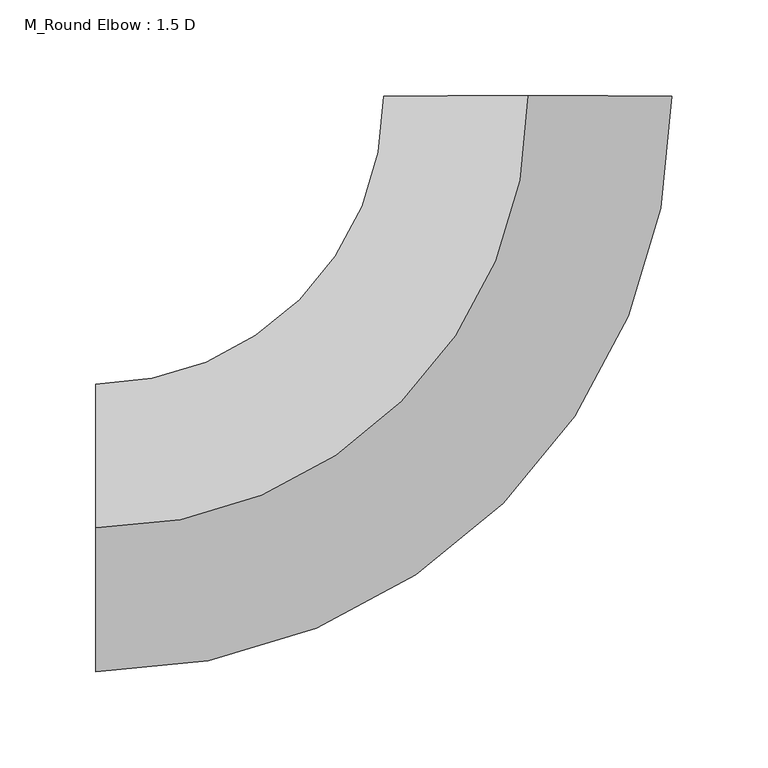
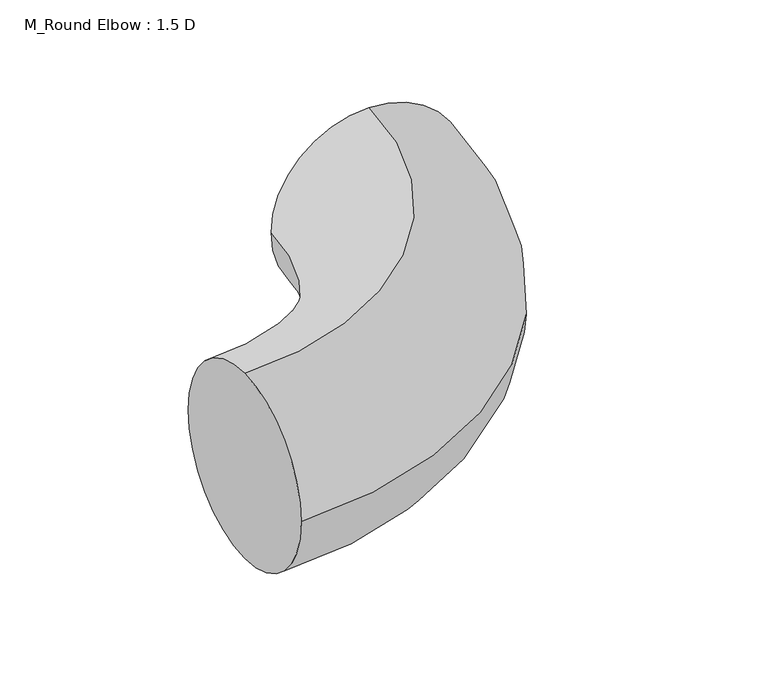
"""IFC4 building model written with IfcOpenShell, lengths in millimetres: duct fitting geometry, M_Round Elbow : 1.5 D."""

import ifcopenshell
import ifcopenshell.guid

model = None  # the IFC model being written
_history = None  # IfcOwnerHistory: only IFC2X3 demands one
_inside = {}  # id of a spatial element -> (the spatial element, [elements in it])
_under = {}  # id of a project, library or spatial element -> (it, [spatial elements below it])
_declared = {}  # id of a project -> (the project, [libraries it declares])
_typed = {}  # id of a type object -> (the type object, [elements of that type])
_made_of = {}  # id of a material, layer set ... -> (it, [elements and type objects made of it])


def new_model(schema):
    """Start an empty IFC model of exactly this schema.

    Asked for "IFC4X3", IfcOpenShell would pick the latest addendum, in which some entities
    have other attributes; the version numbers below select the first issue.
    IFC2X3 requires an IfcOwnerHistory on every rooted entity: one is made here for all.
    """
    global model, _history
    if schema == "IFC4X3":
        model = ifcopenshell.file(schema_version=(4, 3, 0, 0))
    else:
        model = ifcopenshell.file(schema=schema)
    _inside.clear()
    _under.clear()
    _declared.clear()
    _typed.clear()
    _made_of.clear()
    _history = None
    if model.schema == "IFC2X3":
        org = make("IfcOrganization", Name="unknown")
        user = make(
            "IfcPersonAndOrganization",
            ThePerson=make("IfcPerson", FamilyName="unknown"),
            TheOrganization=org,
        )
        app = make(
            "IfcApplication",
            ApplicationDeveloper=org,
            Version="unknown",
            ApplicationFullName="unknown",
            ApplicationIdentifier="unknown",
        )
        _history = make(
            "IfcOwnerHistory",
            OwningUser=user,
            OwningApplication=app,
            ChangeAction="ADDED",
            CreationDate=0,
        )
    return model


def make(cls, **values):
    """One entity of the class cls with the attributes given. An attribute that is None is left unset."""
    return model.create_entity(
        cls, **{name: value for name, value in values.items() if value is not None}
    )


def rooted(cls, **values):
    """An entity with a GlobalId (a new one), such as an element, a storey or a relation."""
    return make(cls, GlobalId=ifcopenshell.guid.new(), OwnerHistory=_history, **values)


def si_unit(unit_type, name, prefix=None):
    """IfcSIUnit, for example si_unit("LENGTHUNIT", "METRE", prefix="MILLI")."""
    return make("IfcSIUnit", UnitType=unit_type, Prefix=prefix, Name=name)


def assignment(units):
    """IfcUnitAssignment: the units of a project."""
    return None if units is None else make("IfcUnitAssignment", Units=units)


def point(xyz):
    """IfcCartesianPoint."""
    return None if xyz is None else make("IfcCartesianPoint", Coordinates=xyz)


def direction(xyz):
    """IfcDirection."""
    return None if xyz is None else make("IfcDirection", DirectionRatios=xyz)


def frame(location, z_axis=None, x_axis=None):
    """IfcAxis2Placement3D, a coordinate frame: its origin and axes. An axis left out is left unset."""
    return make(
        "IfcAxis2Placement3D",
        Location=point(location),
        Axis=direction(z_axis),
        RefDirection=direction(x_axis),
    )


def origin():
    """The frame at (0, 0, 0) with its axes left unset."""
    return frame((0.0, 0.0, 0.0))


def place(relative_to, where):
    """IfcLocalPlacement: puts the frame where relative to a parent placement (None: the world)."""
    return make(
        "IfcLocalPlacement", PlacementRelTo=relative_to, RelativePlacement=where
    )


def context(
    kind, dimensions, precision=None, world=None, true_north=None, identifier=None
):
    """IfcGeometricRepresentationContext, for example the 3D "Model" context."""
    return make(
        "IfcGeometricRepresentationContext",
        ContextIdentifier=identifier,
        ContextType=kind,
        CoordinateSpaceDimension=dimensions,
        Precision=precision,
        WorldCoordinateSystem=world,
        TrueNorth=true_north,
    )


def project(units=None, contexts=None):
    """IfcProject with its units and contexts."""
    return rooted(
        "IfcProject",
        Name="project",
        RepresentationContexts=contexts,
        UnitsInContext=assignment(units),
    )


def spatial(cls, under=None, at=None, **own):
    """A site, building, storey or space (cls), placed at a placement, below another one or the project."""
    s = rooted(cls, ObjectPlacement=at, **own)
    if under is not None:
        _under.setdefault(under.id(), (under, []))[1].append(s)
    return s


def circle_curve(where, radius):
    """IfcCircle in the frame where."""
    return make("IfcCircle", Position=where, Radius=radius)


def ellipse_curve(where, semi_axis1, semi_axis2):
    """IfcEllipse in the frame where."""
    return make(
        "IfcEllipse", Position=where, SemiAxis1=semi_axis1, SemiAxis2=semi_axis2
    )


def trimmed(basis, trim1, trim2, sense, master):
    """IfcTrimmedCurve: the piece of a basis curve between two trims."""
    return make(
        "IfcTrimmedCurve",
        BasisCurve=basis,
        Trim1=trim1,
        Trim2=trim2,
        SenseAgreement=sense,
        MasterRepresentation=master,
    )


def shape(context_of_items, identifier, shape_type, items):
    """IfcShapeRepresentation: the items that make up one representation, for example the "Body"."""
    return make(
        "IfcShapeRepresentation",
        ContextOfItems=context_of_items,
        RepresentationIdentifier=identifier,
        RepresentationType=shape_type,
        Items=items,
    )


def source(mapping_origin, context_of_items, identifier, shape_type, items):
    """IfcRepresentationMap: a shape defined once, which mapped items show again and again."""
    return make(
        "IfcRepresentationMap",
        MappingOrigin=mapping_origin,
        MappedRepresentation=shape(context_of_items, identifier, shape_type, items),
    )


def transform(
    local_origin,
    x_axis=None,
    y_axis=None,
    z_axis=None,
    scale=None,
    scale2=None,
    scale3=None,
    uniform=True,
):
    """IfcCartesianTransformationOperator3D, or its non-uniform kind. x_axis, y_axis, z_axis: its Axis1, 2, 3."""
    if uniform:
        return make(
            "IfcCartesianTransformationOperator3D",
            Axis1=direction(x_axis),
            Axis2=direction(y_axis),
            LocalOrigin=point(local_origin),
            Scale=scale,
            Axis3=direction(z_axis),
        )
    return make(
        "IfcCartesianTransformationOperator3DnonUniform",
        Axis1=direction(x_axis),
        Axis2=direction(y_axis),
        LocalOrigin=point(local_origin),
        Scale=scale,
        Axis3=direction(z_axis),
        Scale2=scale2,
        Scale3=scale3,
    )


def mapped(mapping_source, mapping_target):
    """IfcMappedItem: shows the shape of a source again, moved by a transform."""
    return make(
        "IfcMappedItem", MappingSource=mapping_source, MappingTarget=mapping_target
    )


def made_of(thing, what):
    """Note that an element or type object is made of a material, layer set ...; save() writes the relation."""
    if what is not None:
        _made_of.setdefault(what.id(), (what, []))[1].append(thing)
    return thing


def element(
    cls,
    number,
    at=None,
    inside=None,
    cuts=None,
    type_object=None,
    material=None,
    context=None,
    identifier="Body",
    shape_type=None,
    held_by="IfcProductDefinitionShape",
    body=None,
    shapes=None,
    **own,
):
    """One element of the class cls, such as IfcWall. Its Tag is "e" and its number.

    at: its placement. inside: the storey or other place that contains it. cuts: it is an
    opening in that element (IfcRelVoidsElement). A single representation is given by context,
    identifier, shape_type and body (its items); several are given by shapes. held_by: the class
    of the entity that holds the representations. save() writes the other relations.
    """
    e = rooted(cls, Tag="e%d" % number, ObjectPlacement=at, **own)
    if body is not None:
        shapes = [shape(context, identifier, shape_type, body)]
    if shapes is not None:
        e.Representation = make(held_by, Representations=shapes)
    if inside is not None:
        _inside.setdefault(inside.id(), (inside, []))[1].append(e)
    if cuts is not None:
        rooted(
            "IfcRelVoidsElement", RelatingBuildingElement=cuts, RelatedOpeningElement=e
        )
    if type_object is not None:
        _typed.setdefault(type_object.id(), (type_object, []))[1].append(e)
    return made_of(e, material)


def aggregate(whole, parts):
    """IfcRelAggregates: a whole, such as a stair, and the parts it consists of."""
    return rooted("IfcRelAggregates", RelatingObject=whole, RelatedObjects=parts)


def save(model, path):
    """Write the relations noted so far, then the file.

    IfcRelAggregates (storeys below a building ...), IfcRelContainedInSpatialStructure (elements
    in a storey), IfcRelDefinesByType, IfcRelAssociatesMaterial and IfcRelDeclares: one each for
    every whole, place, type object, material and project.
    """
    for whole, parts in _under.values():
        aggregate(whole, parts)
    for where, things in _inside.values():
        rooted(
            "IfcRelContainedInSpatialStructure",
            RelatedElements=things,
            RelatingStructure=where,
        )
    for kind, things in _typed.values():
        rooted("IfcRelDefinesByType", RelatedObjects=things, RelatingType=kind)
    for what, things in _made_of.values():
        rooted("IfcRelAssociatesMaterial", RelatedObjects=things, RelatingMaterial=what)
    for by, libraries in _declared.values():
        rooted("IfcRelDeclares", RelatingContext=by, RelatedDefinitions=libraries)
    model.write(path)


def plane_surface(at):
    """IfcPlane: the flat surface through the origin of the frame at, square to its z axis."""
    return make("IfcPlane", Position=at)


def revolved_surface(curve, axis_point, axis_direction):
    """IfcSurfaceOfRevolution: the curve turned about the line through axis_point along axis_direction."""
    return make(
        "IfcSurfaceOfRevolution",
        SweptCurve=make("IfcArbitraryOpenProfileDef", ProfileType="CURVE", Curve=curve),
        AxisPosition=make("IfcAxis1Placement", Location=point(axis_point), Axis=direction(axis_direction)),
    )


def advanced_brep(points, edges, surfaces, faces):
    """IfcAdvancedBrep: a solid bounded by faces that lie on surfaces and meet in shared edges.

    An edge is (start, end): straight between two places in points (the first is 0);
    or (start, end, curve); or (start, end, curve, False) where it runs against its curve.
    A face is (place in surfaces, loops), or (place, loops, False) where it looks against
    its surface's normal. A loop lists edges by number (the first is 1), with a minus sign
    where the edge is run from its end to its start. The first loop is the outer one.
    """
    corners = [point(p) for p in points]
    vertices = [make("IfcVertexPoint", VertexGeometry=c) for c in corners]
    made = []
    for start, end, *more in edges:
        made.append(
            make(
                "IfcEdgeCurve",
                EdgeStart=vertices[start],
                EdgeEnd=vertices[end],
                EdgeGeometry=more[0] if more else make("IfcPolyline", Points=[corners[start], corners[end]]),
                SameSense=more[1] if len(more) > 1 else True,
            )
        )
    hull = []
    for where, loops, *sense in faces:
        bounds = []
        for j, loop in enumerate(loops):
            ring = [make("IfcOrientedEdge", EdgeElement=made[abs(k) - 1], Orientation=k > 0) for k in loop]
            bounds.append(
                make(
                    "IfcFaceOuterBound" if j == 0 else "IfcFaceBound",
                    Bound=make("IfcEdgeLoop", EdgeList=ring),
                    Orientation=True,
                )
            )
        hull.append(make("IfcAdvancedFace", Bounds=bounds, FaceSurface=surfaces[where], SameSense=sense[0] if sense else True))
    return make("IfcAdvancedBrep", Outer=make("IfcClosedShell", CfsFaces=hull))


def m_round_elbow_1_5_d_b75b4c16(model_context):
    return source(origin(), model_context, "Body", "AdvancedBrep", [
        advanced_brep(
        [(-225.0025315, 0.0, 75.0), (-225.0025315, 75.0, 0.0), (-225.0025315, 0.0, -75.0), (-225.0025315, -75.0, 0.0), (-0.0025315, 225.0025314, 75.0), (74.9974685, 225.0033753, 0.0), (-0.0025315, 225.0025314, -75.0), (-75.0025315, 225.0016876, 0.0)],
        [
            (0, 1, circle_curve(frame((-225.0025315, 0.0, 0.0), z_axis=(-1.0, 0.0, 0.0), x_axis=(0.0, 1.0, 0.0)), 75.0)),
            (1, 2, circle_curve(frame((-225.0025315, 0.0, 0.0), z_axis=(-1.0, 0.0, 0.0), x_axis=(0.0, 1.0, 0.0)), 75.0)),
            (2, 3, circle_curve(frame((-225.0025315, 0.0, 0.0), z_axis=(-1.0, 0.0, 0.0), x_axis=(0.0, 1.0, 0.0)), 75.0)),
            (3, 0, circle_curve(frame((-225.0025315, 0.0, 0.0), z_axis=(-1.0, 0.0, 0.0), x_axis=(0.0, 1.0, 0.0)), 75.0)),
            (4, 5, circle_curve(frame((-0.0025315, 225.0025314, 0.0), z_axis=(-1.1250849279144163e-05, 0.9999999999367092, 0.0), x_axis=(-0.9999999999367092, -1.1250849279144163e-05, 0.0)), 75.0)),
            (5, 6, circle_curve(frame((-0.0025315, 225.0025314, 0.0), z_axis=(-1.1250849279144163e-05, 0.9999999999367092, 0.0), x_axis=(-0.9999999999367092, -1.1250849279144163e-05, 0.0)), 75.0)),
            (6, 7, circle_curve(frame((-0.0025315, 225.0025314, 0.0), z_axis=(-1.1250849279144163e-05, 0.9999999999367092, 0.0), x_axis=(-0.9999999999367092, -1.1250849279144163e-05, 0.0)), 75.0)),
            (7, 4, circle_curve(frame((-0.0025315, 225.0025314, 0.0), z_axis=(-1.1250849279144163e-05, 0.9999999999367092, 0.0), x_axis=(-0.9999999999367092, -1.1250849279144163e-05, 0.0)), 75.0)),
            (7, 1, circle_curve(frame((-225.0025315, 225.0, 0.0), z_axis=(0.0, 0.0, -1.0), x_axis=(0.0, -1.0, 0.0)), 150.0)),
            (0, 4, circle_curve(frame((-225.0025315, 225.0, 75.0), z_axis=(0.0, 0.0, 1.0), x_axis=(0.0, -1.0, 0.0)), 225.0)),
            (6, 2, circle_curve(frame((-225.0025315, 225.0, -75.0), z_axis=(0.0, 0.0, -1.0), x_axis=(0.0, -1.0, 0.0)), 225.0)),
            (5, 3, circle_curve(frame((-225.0025315, 225.0, 0.0), z_axis=(0.0, 0.0, -1.0), x_axis=(0.0, -1.0, 0.0)), 300.0)),
        ],
        [
            plane_surface(frame((-225.0025315, 0.0, 0.0), z_axis=(-1.0, 0.0, 0.0), x_axis=(0.0, 0.0, 1.0))),
            plane_surface(frame((-0.0025315, 225.0025314, 0.0), z_axis=(-1.1250849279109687e-05, 0.9999999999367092, 0.0), x_axis=(0.0, 0.0, 1.0))),
            revolved_surface(trimmed(ellipse_curve(frame((-225.0025315, 0.0, 0.0), z_axis=(-1.0, 0.0, 0.0), x_axis=(0.0, 1.0, 0.0)), 75.0, 75.0), [point((-225.0025315, 0.0, 75.0))], [point((-225.0025315, 75.0, 0.0))], True, "CARTESIAN"), (-225.0025315, 225.0, 0.0), (0.0, 0.0, 1.0)),
            revolved_surface(trimmed(ellipse_curve(frame((-225.0025315, 0.0, 0.0), z_axis=(-1.0, 0.0, 0.0), x_axis=(0.0, 1.0, 0.0)), 75.0, 75.0), [point((-225.0025315, 75.0, 0.0))], [point((-225.0025315, 0.0, -75.0))], True, "CARTESIAN"), (-225.0025315, 225.0, 0.0), (0.0, 0.0, 1.0)),
            revolved_surface(trimmed(ellipse_curve(frame((-225.0025315, 0.0, 0.0), z_axis=(-1.0, 0.0, 0.0), x_axis=(0.0, 1.0, 0.0)), 75.0, 75.0), [point((-225.0025315, 0.0, -75.0))], [point((-225.0025315, -75.0, 0.0))], True, "CARTESIAN"), (-225.0025315, 225.0, 0.0), (0.0, 0.0, 1.0)),
            revolved_surface(trimmed(ellipse_curve(frame((-225.0025315, 0.0, 0.0), z_axis=(-1.0, 0.0, 0.0), x_axis=(0.0, 1.0, 0.0)), 75.0, 75.0), [point((-225.0025315, -75.0, 0.0))], [point((-225.0025315, 0.0, 75.0))], True, "CARTESIAN"), (-225.0025315, 225.0, 0.0), (0.0, 0.0, 1.0)),
        ],
        [
            (0, [[1, 2, 3, 4]]),
            (1, [[5, 6, 7, 8]]),
            (2, [[9, -1, 10, -8]]),
            (3, [[11, -2, -9, -7]]),
            (4, [[12, -3, -11, -6]]),
            (5, [[-10, -4, -12, -5]]),
        ],
    ),
        advanced_brep(
        [(-225.0025315, 0.0, 75.0), (-225.0025315, 75.0, 0.0), (-225.0025315, 0.0, -75.0), (-225.0025315, -75.0, 0.0), (-0.0025315, 225.0025314, 75.0), (74.9974685, 225.0033753, 0.0), (-0.0025315, 225.0025314, -75.0), (-75.0025315, 225.0016876, 0.0)],
        [
            (0, 1, circle_curve(frame((-225.0025315, 0.0, 0.0), z_axis=(-1.0, 0.0, 0.0), x_axis=(0.0, 1.0, 0.0)), 75.0)),
            (1, 2, circle_curve(frame((-225.0025315, 0.0, 0.0), z_axis=(-1.0, 0.0, 0.0), x_axis=(0.0, 1.0, 0.0)), 75.0)),
            (2, 3, circle_curve(frame((-225.0025315, 0.0, 0.0), z_axis=(-1.0, 0.0, 0.0), x_axis=(0.0, 1.0, 0.0)), 75.0)),
            (3, 0, circle_curve(frame((-225.0025315, 0.0, 0.0), z_axis=(-1.0, 0.0, 0.0), x_axis=(0.0, 1.0, 0.0)), 75.0)),
            (4, 5, circle_curve(frame((-0.0025315, 225.0025314, 0.0), z_axis=(-1.1250849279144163e-05, 0.9999999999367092, 0.0), x_axis=(-0.9999999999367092, -1.1250849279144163e-05, 0.0)), 75.0)),
            (5, 6, circle_curve(frame((-0.0025315, 225.0025314, 0.0), z_axis=(-1.1250849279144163e-05, 0.9999999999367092, 0.0), x_axis=(-0.9999999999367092, -1.1250849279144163e-05, 0.0)), 75.0)),
            (6, 7, circle_curve(frame((-0.0025315, 225.0025314, 0.0), z_axis=(-1.1250849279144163e-05, 0.9999999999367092, 0.0), x_axis=(-0.9999999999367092, -1.1250849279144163e-05, 0.0)), 75.0)),
            (7, 4, circle_curve(frame((-0.0025315, 225.0025314, 0.0), z_axis=(-1.1250849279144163e-05, 0.9999999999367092, 0.0), x_axis=(-0.9999999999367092, -1.1250849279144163e-05, 0.0)), 75.0)),
            (7, 1, circle_curve(frame((-225.0025315, 225.0, 0.0), z_axis=(0.0, 0.0, -1.0), x_axis=(0.0, -1.0, 0.0)), 150.0)),
            (0, 4, circle_curve(frame((-225.0025315, 225.0, 75.0), z_axis=(0.0, 0.0, 1.0), x_axis=(0.0, -1.0, 0.0)), 225.0)),
            (6, 2, circle_curve(frame((-225.0025315, 225.0, -75.0), z_axis=(0.0, 0.0, -1.0), x_axis=(0.0, -1.0, 0.0)), 225.0)),
            (5, 3, circle_curve(frame((-225.0025315, 225.0, 0.0), z_axis=(0.0, 0.0, -1.0), x_axis=(0.0, -1.0, 0.0)), 300.0)),
        ],
        [
            plane_surface(frame((-225.0025315, 0.0, 0.0), z_axis=(-1.0, 0.0, 0.0), x_axis=(0.0, 0.0, 1.0))),
            plane_surface(frame((-0.0025315, 225.0025314, 0.0), z_axis=(-1.1250849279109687e-05, 0.9999999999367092, 0.0), x_axis=(0.0, 0.0, 1.0))),
            revolved_surface(trimmed(ellipse_curve(frame((-225.0025315, 0.0, 0.0), z_axis=(-1.0, 0.0, 0.0), x_axis=(0.0, 1.0, 0.0)), 75.0, 75.0), [point((-225.0025315, 0.0, 75.0))], [point((-225.0025315, 75.0, 0.0))], True, "CARTESIAN"), (-225.0025315, 225.0, 0.0), (0.0, 0.0, 1.0)),
            revolved_surface(trimmed(ellipse_curve(frame((-225.0025315, 0.0, 0.0), z_axis=(-1.0, 0.0, 0.0), x_axis=(0.0, 1.0, 0.0)), 75.0, 75.0), [point((-225.0025315, 75.0, 0.0))], [point((-225.0025315, 0.0, -75.0))], True, "CARTESIAN"), (-225.0025315, 225.0, 0.0), (0.0, 0.0, 1.0)),
            revolved_surface(trimmed(ellipse_curve(frame((-225.0025315, 0.0, 0.0), z_axis=(-1.0, 0.0, 0.0), x_axis=(0.0, 1.0, 0.0)), 75.0, 75.0), [point((-225.0025315, 0.0, -75.0))], [point((-225.0025315, -75.0, 0.0))], True, "CARTESIAN"), (-225.0025315, 225.0, 0.0), (0.0, 0.0, 1.0)),
            revolved_surface(trimmed(ellipse_curve(frame((-225.0025315, 0.0, 0.0), z_axis=(-1.0, 0.0, 0.0), x_axis=(0.0, 1.0, 0.0)), 75.0, 75.0), [point((-225.0025315, -75.0, 0.0))], [point((-225.0025315, 0.0, 75.0))], True, "CARTESIAN"), (-225.0025315, 225.0, 0.0), (0.0, 0.0, 1.0)),
        ],
        [
            (0, [[1, 2, 3, 4]]),
            (1, [[5, 6, 7, 8]]),
            (2, [[9, -1, 10, -8]]),
            (3, [[11, -2, -9, -7]]),
            (4, [[12, -3, -11, -6]]),
            (5, [[-10, -4, -12, -5]]),
        ],
    ),
        advanced_brep(
        [(-225.0025315, 0.0, 75.0), (-225.0025315, 75.0, 0.0), (-225.0025315, 0.0, -75.0), (-225.0025315, -75.0, 0.0), (-0.0025315, 225.0025314, 75.0), (74.9974685, 225.0033753, 0.0), (-0.0025315, 225.0025314, -75.0), (-75.0025315, 225.0016876, 0.0)],
        [
            (0, 1, circle_curve(frame((-225.0025315, 0.0, 0.0), z_axis=(-1.0, 0.0, 0.0), x_axis=(0.0, 1.0, 0.0)), 75.0)),
            (1, 2, circle_curve(frame((-225.0025315, 0.0, 0.0), z_axis=(-1.0, 0.0, 0.0), x_axis=(0.0, 1.0, 0.0)), 75.0)),
            (2, 3, circle_curve(frame((-225.0025315, 0.0, 0.0), z_axis=(-1.0, 0.0, 0.0), x_axis=(0.0, 1.0, 0.0)), 75.0)),
            (3, 0, circle_curve(frame((-225.0025315, 0.0, 0.0), z_axis=(-1.0, 0.0, 0.0), x_axis=(0.0, 1.0, 0.0)), 75.0)),
            (4, 5, circle_curve(frame((-0.0025315, 225.0025314, 0.0), z_axis=(-1.1250849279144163e-05, 0.9999999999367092, 0.0), x_axis=(-0.9999999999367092, -1.1250849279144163e-05, 0.0)), 75.0)),
            (5, 6, circle_curve(frame((-0.0025315, 225.0025314, 0.0), z_axis=(-1.1250849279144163e-05, 0.9999999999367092, 0.0), x_axis=(-0.9999999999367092, -1.1250849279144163e-05, 0.0)), 75.0)),
            (6, 7, circle_curve(frame((-0.0025315, 225.0025314, 0.0), z_axis=(-1.1250849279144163e-05, 0.9999999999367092, 0.0), x_axis=(-0.9999999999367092, -1.1250849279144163e-05, 0.0)), 75.0)),
            (7, 4, circle_curve(frame((-0.0025315, 225.0025314, 0.0), z_axis=(-1.1250849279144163e-05, 0.9999999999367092, 0.0), x_axis=(-0.9999999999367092, -1.1250849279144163e-05, 0.0)), 75.0)),
            (7, 1, circle_curve(frame((-225.0025315, 225.0, 0.0), z_axis=(0.0, 0.0, -1.0), x_axis=(0.0, -1.0, 0.0)), 150.0)),
            (0, 4, circle_curve(frame((-225.0025315, 225.0, 75.0), z_axis=(0.0, 0.0, 1.0), x_axis=(0.0, -1.0, 0.0)), 225.0)),
            (6, 2, circle_curve(frame((-225.0025315, 225.0, -75.0), z_axis=(0.0, 0.0, -1.0), x_axis=(0.0, -1.0, 0.0)), 225.0)),
            (5, 3, circle_curve(frame((-225.0025315, 225.0, 0.0), z_axis=(0.0, 0.0, -1.0), x_axis=(0.0, -1.0, 0.0)), 300.0)),
        ],
        [
            plane_surface(frame((-225.0025315, 0.0, 0.0), z_axis=(-1.0, 0.0, 0.0), x_axis=(0.0, 0.0, 1.0))),
            plane_surface(frame((-0.0025315, 225.0025314, 0.0), z_axis=(-1.1250849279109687e-05, 0.9999999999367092, 0.0), x_axis=(0.0, 0.0, 1.0))),
            revolved_surface(trimmed(ellipse_curve(frame((-225.0025315, 0.0, 0.0), z_axis=(-1.0, 0.0, 0.0), x_axis=(0.0, 1.0, 0.0)), 75.0, 75.0), [point((-225.0025315, 0.0, 75.0))], [point((-225.0025315, 75.0, 0.0))], True, "CARTESIAN"), (-225.0025315, 225.0, 0.0), (0.0, 0.0, 1.0)),
            revolved_surface(trimmed(ellipse_curve(frame((-225.0025315, 0.0, 0.0), z_axis=(-1.0, 0.0, 0.0), x_axis=(0.0, 1.0, 0.0)), 75.0, 75.0), [point((-225.0025315, 75.0, 0.0))], [point((-225.0025315, 0.0, -75.0))], True, "CARTESIAN"), (-225.0025315, 225.0, 0.0), (0.0, 0.0, 1.0)),
            revolved_surface(trimmed(ellipse_curve(frame((-225.0025315, 0.0, 0.0), z_axis=(-1.0, 0.0, 0.0), x_axis=(0.0, 1.0, 0.0)), 75.0, 75.0), [point((-225.0025315, 0.0, -75.0))], [point((-225.0025315, -75.0, 0.0))], True, "CARTESIAN"), (-225.0025315, 225.0, 0.0), (0.0, 0.0, 1.0)),
            revolved_surface(trimmed(ellipse_curve(frame((-225.0025315, 0.0, 0.0), z_axis=(-1.0, 0.0, 0.0), x_axis=(0.0, 1.0, 0.0)), 75.0, 75.0), [point((-225.0025315, -75.0, 0.0))], [point((-225.0025315, 0.0, 75.0))], True, "CARTESIAN"), (-225.0025315, 225.0, 0.0), (0.0, 0.0, 1.0)),
        ],
        [
            (0, [[1, 2, 3, 4]]),
            (1, [[5, 6, 7, 8]]),
            (2, [[9, -1, 10, -8]]),
            (3, [[11, -2, -9, -7]]),
            (4, [[12, -3, -11, -6]]),
            (5, [[-10, -4, -12, -5]]),
        ],
    ),
    ])


if __name__ == "__main__":
    model = new_model("IFC4")
    model_context = context("Model", 3, world=origin())
    ifc_project = project(units=[si_unit("LENGTHUNIT", "METRE", prefix="MILLI")], contexts=[model_context])
    site = spatial("IfcSite", under=ifc_project)
    building = spatial("IfcBuilding", under=site)
    placement = place(None, origin())
    m_round_elbow_1_5_d_shape = m_round_elbow_1_5_d_b75b4c16(model_context)
    element("IfcDuctFitting", 1, ObjectType="M_Round Elbow : 1.5 D", at=placement, inside=building, context=model_context, shape_type="MappedRepresentation", body=[
        mapped(m_round_elbow_1_5_d_shape, transform((0.0, 0.0, 0.0), x_axis=(1.0, 0.0, 0.0), y_axis=(0.0, 1.0, 0.0), z_axis=(0.0, 0.0, 1.0))),
    ])
    save(model, "model.ifc")
